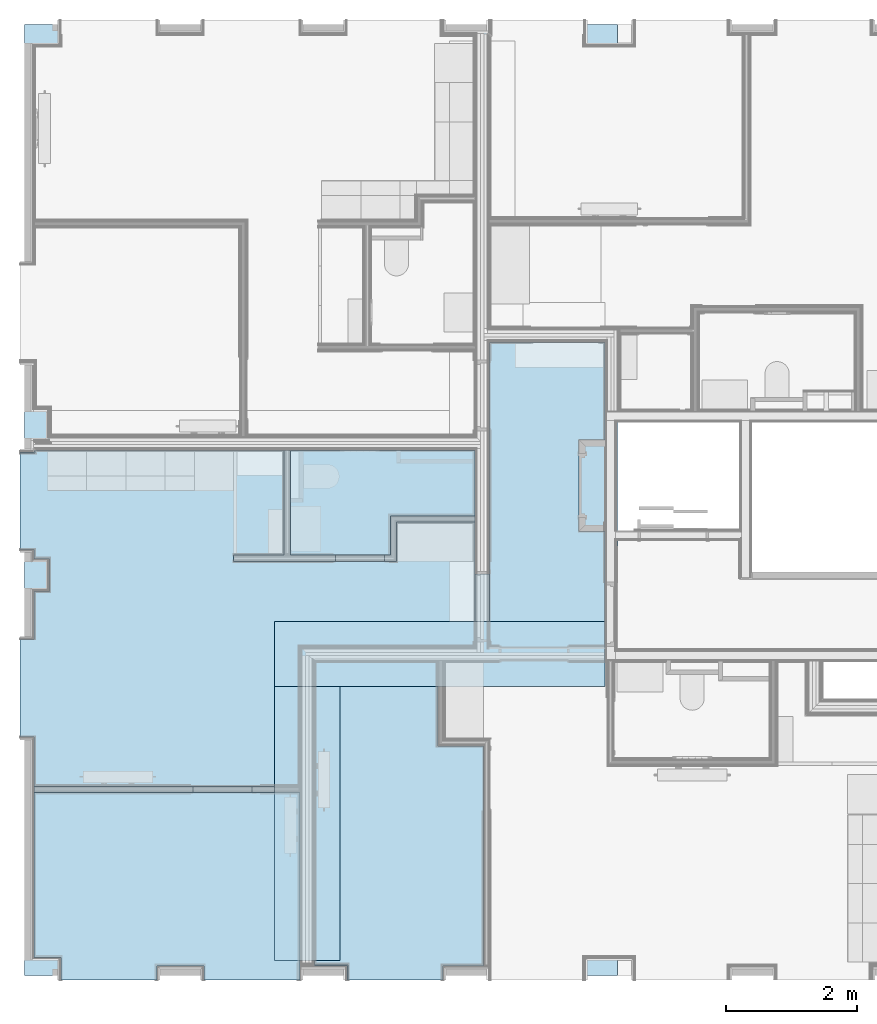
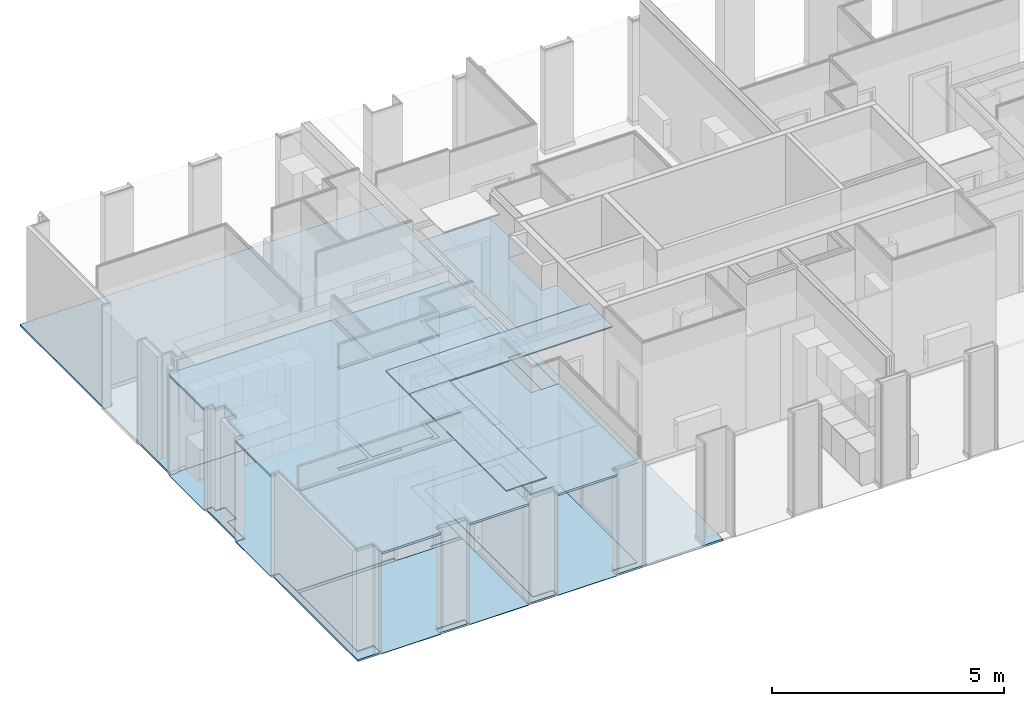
# One storey, part 41 of 64: 21 slabs.
"""IFC2X3 building model written with IfcOpenShell, lengths in metres."""

from ifc_helpers import new_model, entity, si_unit, converted_unit, derived_unit, money_unit, direction, frame, origin_with_axes, place, context, subcontext, project, spatial, faceted_brep, material, type_object, element, save


model = new_model("IFC2X3")

# Units and contexts
model_context = context("Model", 3, precision=1e-05, world=origin_with_axes(), true_north=direction((0.0, 1.0)))
body_context = subcontext(model_context, "Body", "Model", "MODEL_VIEW", scale=1.0)
ifc_project = project(units=[si_unit("LENGTHUNIT", "METRE"), si_unit("AREAUNIT", "SQUARE_METRE"), si_unit("VOLUMEUNIT", "CUBIC_METRE"), si_unit("ABSORBEDDOSEUNIT", "GRAY"), si_unit("AMOUNTOFSUBSTANCEUNIT", "MOLE"), si_unit("DOSEEQUIVALENTUNIT", "SIEVERT"), si_unit("ELECTRICCAPACITANCEUNIT", "FARAD"), si_unit("ELECTRICCHARGEUNIT", "COULOMB"), si_unit("ELECTRICCONDUCTANCEUNIT", "SIEMENS"), si_unit("ELECTRICCURRENTUNIT", "AMPERE"), si_unit("ELECTRICRESISTANCEUNIT", "OHM"), si_unit("ELECTRICVOLTAGEUNIT", "VOLT"), si_unit("ENERGYUNIT", "JOULE"), si_unit("FORCEUNIT", "NEWTON"), si_unit("FREQUENCYUNIT", "HERTZ"), si_unit("ILLUMINANCEUNIT", "LUX"), si_unit("INDUCTANCEUNIT", "HENRY"), si_unit("LUMINOUSFLUXUNIT", "LUMEN"), si_unit("LUMINOUSINTENSITYUNIT", "CANDELA"), si_unit("MAGNETICFLUXDENSITYUNIT", "TESLA"), si_unit("MAGNETICFLUXUNIT", "WEBER"), si_unit("MASSUNIT", "GRAM"), converted_unit("PLANEANGLEUNIT", "degree", entity("IfcReal", 0.0174532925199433), si_unit("PLANEANGLEUNIT", "RADIAN"), dimensions=[0, 0, 0, 0, 0, 0, 0]), si_unit("POWERUNIT", "WATT"), si_unit("PRESSUREUNIT", "PASCAL"), si_unit("RADIOACTIVITYUNIT", "BECQUEREL"), si_unit("SOLIDANGLEUNIT", "STERADIAN"), si_unit("THERMODYNAMICTEMPERATUREUNIT", "KELVIN"), si_unit("TIMEUNIT", "SECOND"), derived_unit("ACCELERATIONUNIT", [(si_unit("LENGTHUNIT", "METRE"), 1), (si_unit("TIMEUNIT", "SECOND"), -2)]), derived_unit("ANGULARVELOCITYUNIT", [(converted_unit("PLANEANGLEUNIT", "degree", entity("IfcReal", 0.0174532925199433), si_unit("PLANEANGLEUNIT", "RADIAN"), dimensions=[0, 0, 0, 0, 0, 0, 0]), 1), (si_unit("TIMEUNIT", "SECOND"), -1)]), derived_unit("CURVATUREUNIT", [(converted_unit("PLANEANGLEUNIT", "degree", entity("IfcReal", 0.0174532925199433), si_unit("PLANEANGLEUNIT", "RADIAN"), dimensions=[0, 0, 0, 0, 0, 0, 0]), 1), (si_unit("LENGTHUNIT", "METRE"), -1)]), derived_unit("DYNAMICVISCOSITYUNIT", [(si_unit("PRESSUREUNIT", "PASCAL"), 1), (si_unit("TIMEUNIT", "SECOND"), 1)]), derived_unit("HEATFLUXDENSITYUNIT", [(si_unit("POWERUNIT", "WATT"), 1), (si_unit("LENGTHUNIT", "METRE"), -2)]), derived_unit("HEATINGVALUEUNIT", [(si_unit("ENERGYUNIT", "JOULE"), 1), (si_unit("MASSUNIT", "GRAM"), -1)]), derived_unit("INTEGERCOUNTRATEUNIT", [(si_unit("TIMEUNIT", "SECOND"), -1)]), derived_unit("IONCONCENTRATIONUNIT", [(si_unit("MASSUNIT", "GRAM"), 1), (si_unit("VOLUMEUNIT", "CUBIC_METRE"), -1)]), derived_unit("ISOTHERMALMOISTURECAPACITYUNIT", [(si_unit("VOLUMEUNIT", "CUBIC_METRE"), 1), (si_unit("MASSUNIT", "GRAM"), -1)]), derived_unit("KINEMATICVISCOSITYUNIT", [(si_unit("AREAUNIT", "SQUARE_METRE"), 1), (si_unit("TIMEUNIT", "SECOND"), -1)]), derived_unit("LINEARFORCEUNIT", [(si_unit("FORCEUNIT", "NEWTON"), 1), (si_unit("LENGTHUNIT", "METRE"), -1)]), derived_unit("LINEARMOMENTUNIT", [(si_unit("FORCEUNIT", "NEWTON"), 1), (si_unit("LENGTHUNIT", "METRE"), -1)]), derived_unit("LINEARSTIFFNESSUNIT", [(si_unit("FORCEUNIT", "NEWTON"), 1), (si_unit("LENGTHUNIT", "METRE"), -1)]), derived_unit("LINEARVELOCITYUNIT", [(si_unit("LENGTHUNIT", "METRE"), 1), (si_unit("TIMEUNIT", "SECOND"), -1)]), derived_unit("LUMINOUSINTENSITYDISTRIBUTIONUNIT", [(si_unit("LUMINOUSINTENSITYUNIT", "CANDELA"), 1), (si_unit("LUMINOUSFLUXUNIT", "LUMEN"), -1)]), derived_unit("MASSDENSITYUNIT", [(si_unit("MASSUNIT", "GRAM"), 1), (si_unit("VOLUMEUNIT", "CUBIC_METRE"), -1)]), derived_unit("MASSFLOWRATEUNIT", [(si_unit("MASSUNIT", "GRAM"), 1), (si_unit("TIMEUNIT", "SECOND"), -1)]), derived_unit("MASSPERLENGTHUNIT", [(si_unit("MASSUNIT", "GRAM"), 1), (si_unit("LENGTHUNIT", "METRE"), -1)]), derived_unit("MODULUSOFELASTICITYUNIT", [(si_unit("FORCEUNIT", "NEWTON"), 1), (si_unit("AREAUNIT", "SQUARE_METRE"), -1)]), derived_unit("MODULUSOFLINEARSUBGRADEREACTIONUNIT", [(si_unit("FORCEUNIT", "NEWTON"), 1), (si_unit("LENGTHUNIT", "METRE"), -2)]), derived_unit("MODULUSOFROTATIONALSUBGRADEREACTIONUNIT", [(si_unit("FORCEUNIT", "NEWTON"), 1), (si_unit("LENGTHUNIT", "METRE"), 1)]), derived_unit("MODULUSOFSUBGRADEREACTIONUNIT", [(si_unit("FORCEUNIT", "NEWTON"), 1), (si_unit("VOLUMEUNIT", "CUBIC_METRE"), -1)]), derived_unit("MOISTUREDIFFUSIVITYUNIT", [(si_unit("VOLUMEUNIT", "CUBIC_METRE"), 1), (si_unit("TIMEUNIT", "SECOND"), -1)]), derived_unit("MOLECULARWEIGHTUNIT", [(si_unit("MASSUNIT", "GRAM"), 1), (si_unit("AMOUNTOFSUBSTANCEUNIT", "MOLE"), -1)]), derived_unit("PLANARFORCEUNIT", [(si_unit("FORCEUNIT", "NEWTON"), 1), (si_unit("LENGTHUNIT", "METRE"), -2)]), derived_unit("ROTATIONALFREQUENCYUNIT", [(si_unit("TIMEUNIT", "SECOND"), -1)]), derived_unit("ROTATIONALMASSUNIT", [(si_unit("MASSUNIT", "GRAM"), 1), (si_unit("LENGTHUNIT", "METRE"), 2)]), derived_unit("ROTATIONALSTIFFNESSUNIT", [(si_unit("FORCEUNIT", "NEWTON"), 1), (si_unit("LENGTHUNIT", "METRE"), 1), (converted_unit("PLANEANGLEUNIT", "degree", entity("IfcReal", 0.0174532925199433), si_unit("PLANEANGLEUNIT", "RADIAN"), dimensions=[0, 0, 0, 0, 0, 0, 0]), -1)]), derived_unit("SECTIONAREAINTEGRALUNIT", [(si_unit("LENGTHUNIT", "METRE"), 5)]), derived_unit("SECTIONMODULUSUNIT", [(si_unit("LENGTHUNIT", "METRE"), 3)]), derived_unit("SHEARMODULUSUNIT", [(si_unit("FORCEUNIT", "NEWTON"), 1), (si_unit("AREAUNIT", "SQUARE_METRE"), -1)]), derived_unit("SOUNDPOWERUNIT", [(si_unit("ENERGYUNIT", "JOULE"), 1), (si_unit("TIMEUNIT", "SECOND"), -1)]), derived_unit("SPECIFICHEATCAPACITYUNIT", [(si_unit("FORCEUNIT", "NEWTON"), 1), (si_unit("MASSUNIT", "GRAM"), -1), (si_unit("THERMODYNAMICTEMPERATUREUNIT", "KELVIN"), -1)]), derived_unit("TEMPERATUREGRADIENTUNIT", [(si_unit("THERMODYNAMICTEMPERATUREUNIT", "KELVIN"), 1), (si_unit("LENGTHUNIT", "METRE"), -1)]), derived_unit("THERMALADMITTANCEUNIT", [(si_unit("POWERUNIT", "WATT"), 1), (si_unit("AREAUNIT", "SQUARE_METRE"), -1), (si_unit("THERMODYNAMICTEMPERATUREUNIT", "KELVIN"), -1)]), derived_unit("THERMALCONDUCTANCEUNIT", [(si_unit("POWERUNIT", "WATT"), 1), (si_unit("LENGTHUNIT", "METRE"), -1), (si_unit("THERMODYNAMICTEMPERATUREUNIT", "KELVIN"), -1)]), derived_unit("THERMALEXPANSIONCOEFFICIENTUNIT", [(si_unit("THERMODYNAMICTEMPERATUREUNIT", "KELVIN"), -1)]), derived_unit("THERMALRESISTANCEUNIT", [(si_unit("AREAUNIT", "SQUARE_METRE"), 1), (si_unit("POWERUNIT", "WATT"), -1)]), derived_unit("THERMALTRANSMITTANCEUNIT", [(si_unit("POWERUNIT", "WATT"), 1), (si_unit("AREAUNIT", "SQUARE_METRE"), -1), (si_unit("THERMODYNAMICTEMPERATUREUNIT", "KELVIN"), -1)]), derived_unit("TORQUEUNIT", [(si_unit("FORCEUNIT", "NEWTON"), 1), (si_unit("LENGTHUNIT", "METRE"), 1)]), derived_unit("VAPORPERMEABILITYUNIT", [(si_unit("MASSUNIT", "GRAM"), 1), (si_unit("TIMEUNIT", "SECOND"), -1)]), derived_unit("VOLUMETRICFLOWRATEUNIT", [(si_unit("VOLUMEUNIT", "CUBIC_METRE"), 1), (si_unit("TIMEUNIT", "SECOND"), -1)]), derived_unit("WARPINGCONSTANTUNIT", [(si_unit("LENGTHUNIT", "METRE"), 6)]), derived_unit("WARPINGMOMENTUNIT", [(si_unit("FORCEUNIT", "NEWTON"), 1), (si_unit("LENGTHUNIT", "METRE"), 2)]), money_unit("GBP")], contexts=[model_context])

# Site, building, storey
site_placement = place(None, origin_with_axes())
site = spatial("IfcSite", under=ifc_project, at=site_placement, Name="Site", CompositionType="ELEMENT")
building_placement = place(site_placement, origin_with_axes())
building = spatial("IfcBuilding", under=site, at=building_placement, Name="Building01", CompositionType="ELEMENT")
storey_placement = place(building_placement, frame((0.0, 0.0, 8.64), z_axis=(0.0, 0.0, 1.0), x_axis=(1.0, 0.0, 0.0)))
storey = spatial("IfcBuildingStorey", under=building, at=storey_placement, Name="2F", CompositionType="ELEMENT", Elevation=8.64)

# Slabs
ifc_material_1 = material(Name="A_BSUK_CeilingSoffitFinishes_Suspended")
slab_type_1 = type_object("IfcSlabType", Name="A-FloorsSlabs A_BSUK_Slabs", PredefinedType="FLOOR")
placement = place(storey_placement, frame((0.0, 0.0, -8.64), z_axis=(0.0, 0.0, 1.0), x_axis=(1.0, 0.0, 0.0)))
element("IfcSlab", 1, at=placement, inside=storey, type_object=slab_type_1, material=ifc_material_1, Name="A-FloorsSlabs A_BSUK_Slabs", ObjectType="CompoundSlabLeaf", context=body_context, shape_type="Brep", body=[
    faceted_brep([(7.289669, 5.205, 11.255), (7.289669, 5.205, 11.27), (7.289669, 9.862704, 11.27), (7.289669, 9.862704, 11.255), (9.06, 5.205, 11.255), (9.06, 5.205, 11.27), (9.06, 6.968405, 11.255), (9.06, 6.968405, 11.27), (8.658, 6.968405, 11.255), (8.658, 6.968405, 11.27), (8.658, 8.372405, 11.255), (8.658, 8.372405, 11.27), (9.06, 8.372405, 11.255), (9.06, 8.372405, 11.27), (9.06, 8.665, 11.255), (9.06, 8.665, 11.27), (9.06, 9.862704, 11.255), (9.06, 9.862704, 11.27)], [[[0, 1, 2, 3]], [[4, 5, 1, 0]], [[6, 7, 5, 4]], [[8, 9, 7, 6]], [[10, 11, 9, 8]], [[12, 13, 11, 10]], [[14, 15, 13, 12]], [[16, 17, 15, 14]], [[3, 2, 17, 16]], [[1, 5, 7, 9, 11, 13, 15, 17, 2]], [[3, 16, 14, 12, 10, 8, 6, 4, 0]]]),
])
ifc_material_2 = material(Name="A_BSUK_InternalFinishes_FloorScreed")
element("IfcSlab", 2, at=placement, inside=storey, type_object=slab_type_1, material=ifc_material_2, Name="A-FloorsSlabs A_BSUK_Slabs", ObjectType="CompoundSlabLeaf", context=body_context, shape_type="Brep", body=[
    faceted_brep([(0.17, 14.73, 8.59), (0.17, 14.73, 8.64), (9.25, 14.73, 8.64), (9.25, 14.73, 8.59), (0.17, 0.17, 8.59), (0.17, 0.17, 8.64), (9.25, 0.17, 8.59), (9.25, 0.17, 8.64)], [[[0, 1, 2, 3]], [[4, 5, 1, 0]], [[6, 7, 5, 4]], [[3, 2, 7, 6]], [[1, 5, 7, 2]], [[3, 6, 4, 0]]]),
])
ifc_material_3 = material(Name="A_BSUK_ExpandedPolystyreneBoards")
element("IfcSlab", 3, at=placement, inside=storey, type_object=slab_type_1, material=ifc_material_3, Name="A-FloorsSlabs A_BSUK_Slabs", ObjectType="CompoundSlabLeaf", context=body_context, shape_type="Brep", body=[
    faceted_brep([(7.289669, 5.205, 8.64), (7.289669, 5.205, 8.643), (7.289669, 9.862704, 8.643), (7.289669, 9.862704, 8.64), (9.06, 5.205, 8.64), (9.06, 5.205, 8.643), (9.06, 6.607081, 8.64), (9.06, 6.607081, 8.643), (9.06, 8.372405, 8.64), (9.06, 8.372405, 8.643), (9.06, 8.9, 8.64), (9.06, 8.9, 8.643), (9.06, 9.862704, 8.64), (9.06, 9.862704, 8.643)], [[[0, 1, 2, 3]], [[4, 5, 1, 0]], [[6, 7, 5, 4]], [[8, 9, 7, 6]], [[10, 11, 9, 8]], [[12, 13, 11, 10]], [[3, 2, 13, 12]], [[1, 5, 7, 9, 11, 13, 2]], [[3, 12, 10, 8, 6, 4, 0]]]),
])
element("IfcSlab", 4, at=placement, inside=storey, type_object=slab_type_1, material=ifc_material_3, Name="A-FloorsSlabs A_BSUK_Slabs", ObjectType="CompoundSlabLeaf", context=body_context, shape_type="Brep", body=[
    faceted_brep([(0.318, 8.21067, 8.64), (0.318, 8.21067, 8.643), (7.064669, 8.21067, 8.643), (7.064669, 8.21067, 8.64), (0.318, 8.185, 8.64), (0.318, 8.185, 8.643), (0.1, 8.185, 8.64), (0.1, 8.185, 8.643), (0.1, 6.69218, 8.64), (0.1, 6.69218, 8.643), (0.318, 6.69218, 8.64), (0.318, 6.69218, 8.643), (0.318, 6.548, 8.64), (0.318, 6.548, 8.643), (0.548, 6.548, 8.64), (0.548, 6.548, 8.643), (0.548, 6.052, 8.64), (0.548, 6.052, 8.643), (0.318, 6.052, 8.64), (0.318, 6.052, 8.643), (0.318, 5.315, 8.64), (0.318, 5.315, 8.643), (0.1, 5.315, 8.64), (0.1, 5.315, 8.643), (0.1, 3.82218, 8.64), (0.1, 3.82218, 8.643), (0.318, 3.82218, 8.64), (0.318, 3.82218, 8.643), (0.318, 0.448, 8.64), (0.318, 0.448, 8.643), (0.725, 0.448, 8.64), (0.725, 0.448, 8.643), (0.725, 0.1, 8.64), (0.725, 0.1, 8.643), (2.195, 0.1, 8.64), (2.195, 0.1, 8.643), (2.195, 0.318, 8.64), (2.195, 0.318, 8.643), (2.915, 0.318, 8.64), (2.915, 0.318, 8.643), (2.915, 0.1, 8.64), (2.915, 0.1, 8.643), (4.385, 0.1, 8.64), (4.385, 0.1, 8.643), (4.385, 0.318, 8.64), (4.385, 0.318, 8.643), (4.385, 5.205, 8.64), (4.385, 5.205, 8.643), (7.064669, 5.205, 8.64), (7.064669, 5.205, 8.643), (7.064669, 5.316475, 8.64), (7.064669, 5.316475, 8.643), (7.289669, 5.316475, 8.64), (7.289669, 5.316475, 8.643), (7.289669, 6.316475, 8.64), (7.289669, 6.316475, 8.643), (7.064669, 6.316475, 8.64), (7.064669, 6.316475, 8.643)], [[[0, 1, 2, 3]], [[4, 5, 1, 0]], [[6, 7, 5, 4]], [[8, 9, 7, 6]], [[10, 11, 9, 8]], [[12, 13, 11, 10]], [[14, 15, 13, 12]], [[16, 17, 15, 14]], [[18, 19, 17, 16]], [[20, 21, 19, 18]], [[22, 23, 21, 20]], [[24, 25, 23, 22]], [[26, 27, 25, 24]], [[28, 29, 27, 26]], [[30, 31, 29, 28]], [[32, 33, 31, 30]], [[34, 35, 33, 32]], [[36, 37, 35, 34]], [[38, 39, 37, 36]], [[40, 41, 39, 38]], [[42, 43, 41, 40]], [[44, 45, 43, 42]], [[46, 47, 45, 44]], [[48, 49, 47, 46]], [[50, 51, 49, 48]], [[52, 53, 51, 50]], [[54, 55, 53, 52]], [[56, 57, 55, 54]], [[3, 2, 57, 56]], [[1, 5, 7, 9, 11, 13, 15, 17, 19, 21, 23, 25, 27, 29, 31, 33, 35, 37, 39, 41, 43, 45, 47, 49, 51, 53, 55, 57, 2]], [[3, 56, 54, 52, 50, 48, 46, 44, 42, 40, 38, 36, 34, 32, 30, 28, 26, 24, 22, 20, 18, 16, 14, 12, 10, 8, 6, 4, 0]]]),
])
ifc_material_4 = material(Name="A_BSUK_Carpet-Pile")
element("IfcSlab", 5, at=placement, inside=storey, type_object=slab_type_1, material=ifc_material_4, Name="A-FloorsSlabs A_BSUK_Slabs", ObjectType="CompoundSlabLeaf", context=body_context, shape_type="Brep", body=[
    faceted_brep([(4.61, 4.98, 8.643), (4.61, 4.98, 8.655), (6.5, 4.98, 8.655), (6.5, 4.98, 8.643), (4.61, 0.318, 8.643), (4.61, 0.318, 8.655), (5.105, 0.318, 8.643), (5.105, 0.318, 8.655), (5.105, 0.1, 8.643), (5.105, 0.1, 8.655), (6.575, 0.1, 8.643), (6.575, 0.1, 8.655), (6.575, 0.318, 8.643), (6.575, 0.318, 8.655), (7.2, 0.318, 8.643), (7.2, 0.318, 8.655), (7.2, 3.685, 8.643), (7.2, 3.685, 8.655), (6.5, 3.685, 8.643), (6.5, 3.685, 8.655)], [[[0, 1, 2, 3]], [[4, 5, 1, 0]], [[6, 7, 5, 4]], [[8, 9, 7, 6]], [[10, 11, 9, 8]], [[12, 13, 11, 10]], [[14, 15, 13, 12]], [[16, 17, 15, 14]], [[18, 19, 17, 16]], [[3, 2, 19, 18]], [[1, 5, 7, 9, 11, 13, 15, 17, 19, 2]], [[3, 18, 16, 14, 12, 10, 8, 6, 4, 0]]]),
])
ifc_material_5 = material(Name="A_BSUK_Parquet_Floor")
element("IfcSlab", 6, at=placement, inside=storey, type_object=slab_type_1, material=ifc_material_5, Name="A-FloorsSlabs A_BSUK_Slabs", ObjectType="CompoundSlabLeaf", context=body_context, shape_type="Brep", body=[
    faceted_brep([(7.289669, 6.316475, 8.643), (7.289669, 6.316475, 8.655), (7.289669, 5.316475, 8.655), (7.289669, 5.316475, 8.643), (7.064669, 6.316475, 8.643), (7.064669, 6.316475, 8.655), (7.064669, 7.111475, 8.643), (7.064669, 7.111475, 8.655), (5.864669, 7.111475, 8.643), (5.864669, 7.111475, 8.655), (5.864669, 6.511475, 8.643), (5.864669, 6.511475, 8.655), (5.679088, 6.511475, 8.643), (5.679088, 6.511475, 8.655), (5.679088, 6.606475, 8.643), (5.679088, 6.606475, 8.655), (4.929088, 6.606475, 8.643), (4.929088, 6.606475, 8.655), (4.929088, 6.511475, 8.643), (4.929088, 6.511475, 8.655), (3.37073, 6.511475, 8.643), (3.37073, 6.511475, 8.655), (3.37073, 6.606475, 8.643), (3.37073, 6.606475, 8.655), (4.14573, 6.606475, 8.643), (4.14573, 6.606475, 8.655), (4.14573, 8.21067, 8.643), (4.14573, 8.21067, 8.655), (0.318, 8.21067, 8.643), (0.318, 8.21067, 8.655), (0.318, 8.185, 8.643), (0.318, 8.185, 8.655), (0.1, 8.185, 8.643), (0.1, 8.185, 8.655), (0.1, 6.69218, 8.643), (0.1, 6.69218, 8.655), (0.318, 6.69218, 8.643), (0.318, 6.69218, 8.655), (0.318, 6.548, 8.643), (0.318, 6.548, 8.655), (0.548, 6.548, 8.643), (0.548, 6.548, 8.655), (0.548, 6.052, 8.643), (0.548, 6.052, 8.655), (0.318, 6.052, 8.643), (0.318, 6.052, 8.655), (0.318, 5.315, 8.643), (0.318, 5.315, 8.655), (0.1, 5.315, 8.643), (0.1, 5.315, 8.655), (0.1, 3.82218, 8.643), (0.1, 3.82218, 8.655), (0.318, 3.82218, 8.643), (0.318, 3.82218, 8.655), (0.318, 3.065286, 8.643), (0.318, 3.065286, 8.655), (2.751, 3.065286, 8.643), (2.751, 3.065286, 8.655), (2.751, 2.970286, 8.643), (2.751, 2.970286, 8.655), (3.651, 2.970286, 8.643), (3.651, 2.970286, 8.655), (3.651, 3.065286, 8.643), (3.651, 3.065286, 8.655), (4.385, 3.065286, 8.643), (4.385, 3.065286, 8.655), (4.385, 5.205, 8.643), (4.385, 5.205, 8.655), (7.064669, 5.205, 8.643), (7.064669, 5.205, 8.655), (7.064669, 5.316475, 8.643), (7.064669, 5.316475, 8.655)], [[[0, 1, 2, 3]], [[4, 5, 1, 0]], [[6, 7, 5, 4]], [[8, 9, 7, 6]], [[10, 11, 9, 8]], [[12, 13, 11, 10]], [[14, 15, 13, 12]], [[16, 17, 15, 14]], [[18, 19, 17, 16]], [[20, 21, 19, 18]], [[22, 23, 21, 20]], [[24, 25, 23, 22]], [[26, 27, 25, 24]], [[28, 29, 27, 26]], [[30, 31, 29, 28]], [[32, 33, 31, 30]], [[34, 35, 33, 32]], [[36, 37, 35, 34]], [[38, 39, 37, 36]], [[40, 41, 39, 38]], [[42, 43, 41, 40]], [[44, 45, 43, 42]], [[46, 47, 45, 44]], [[48, 49, 47, 46]], [[50, 51, 49, 48]], [[52, 53, 51, 50]], [[54, 55, 53, 52]], [[56, 57, 55, 54]], [[58, 59, 57, 56]], [[60, 61, 59, 58]], [[62, 63, 61, 60]], [[64, 65, 63, 62]], [[66, 67, 65, 64]], [[68, 69, 67, 66]], [[70, 71, 69, 68]], [[3, 2, 71, 70]], [[1, 5, 7, 9, 11, 13, 15, 17, 19, 21, 23, 25, 27, 29, 31, 33, 35, 37, 39, 41, 43, 45, 47, 49, 51, 53, 55, 57, 59, 61, 63, 65, 67, 69, 71, 2]], [[3, 70, 68, 66, 64, 62, 60, 58, 56, 54, 52, 50, 48, 46, 44, 42, 40, 38, 36, 34, 32, 30, 28, 26, 24, 22, 20, 18, 16, 14, 12, 10, 8, 6, 4, 0]]]),
])
ifc_material_6 = material(Name="A_BSUK_Ceramic_FloorTiles")
element("IfcSlab", 7, at=placement, inside=storey, type_object=slab_type_1, material=ifc_material_6, Name="A-FloorsSlabs A_BSUK_Slabs", ObjectType="CompoundSlabLeaf", context=body_context, shape_type="Brep", body=[
    faceted_brep([(4.24073, 8.21067, 8.643), (4.24073, 8.21067, 8.655), (7.064669, 8.21067, 8.655), (7.064669, 8.21067, 8.643), (4.24073, 6.606475, 8.643), (4.24073, 6.606475, 8.655), (5.769669, 6.606475, 8.643), (5.769669, 6.606475, 8.655), (5.769669, 7.206475, 8.643), (5.769669, 7.206475, 8.655), (7.064669, 7.206475, 8.643), (7.064669, 7.206475, 8.655)], [[[0, 1, 2, 3]], [[4, 5, 1, 0]], [[6, 7, 5, 4]], [[8, 9, 7, 6]], [[10, 11, 9, 8]], [[3, 2, 11, 10]], [[1, 5, 7, 9, 11, 2]], [[3, 10, 8, 6, 4, 0]]]),
])
element("IfcSlab", 8, at=placement, inside=storey, type_object=slab_type_1, material=ifc_material_4, Name="A-FloorsSlabs A_BSUK_Slabs", ObjectType="CompoundSlabLeaf", context=body_context, shape_type="Brep", body=[
    faceted_brep([(0.318, 0.448, 8.643), (0.318, 0.448, 8.655), (0.318, 2.970286, 8.655), (0.318, 2.970286, 8.643), (0.725, 0.448, 8.643), (0.725, 0.448, 8.655), (0.725, 0.1, 8.643), (0.725, 0.1, 8.655), (2.195, 0.1, 8.643), (2.195, 0.1, 8.655), (2.195, 0.318, 8.643), (2.195, 0.318, 8.655), (2.915, 0.318, 8.643), (2.915, 0.318, 8.655), (2.915, 0.1, 8.643), (2.915, 0.1, 8.655), (4.385, 0.1, 8.643), (4.385, 0.1, 8.655), (4.385, 2.970286, 8.643), (4.385, 2.970286, 8.655)], [[[0, 1, 2, 3]], [[4, 5, 1, 0]], [[6, 7, 5, 4]], [[8, 9, 7, 6]], [[10, 11, 9, 8]], [[12, 13, 11, 10]], [[14, 15, 13, 12]], [[16, 17, 15, 14]], [[18, 19, 17, 16]], [[3, 2, 19, 18]], [[1, 5, 7, 9, 11, 13, 15, 17, 19, 2]], [[3, 18, 16, 14, 12, 10, 8, 6, 4, 0]]]),
])
element("IfcSlab", 9, at=placement, inside=storey, type_object=slab_type_1, material=ifc_material_4, Name="A-FloorsSlabs A_BSUK_Slabs", ObjectType="CompoundSlabLeaf", context=body_context, shape_type="Brep", body=[
    faceted_brep([(7.289669, 9.862704, 8.643), (7.289669, 9.862704, 8.655), (9.06, 9.862704, 8.655), (9.06, 9.862704, 8.643), (7.289669, 5.205, 8.643), (7.289669, 5.205, 8.655), (9.06, 5.205, 8.643), (9.06, 5.205, 8.655), (9.06, 6.968405, 8.643), (9.06, 6.968405, 8.655), (8.658, 6.968405, 8.643), (8.658, 6.968405, 8.655), (8.658, 7.610847, 8.643), (8.658, 7.610847, 8.655), (8.658, 8.372405, 8.643), (8.658, 8.372405, 8.655), (9.06, 8.372405, 8.643), (9.06, 8.372405, 8.655)], [[[0, 1, 2, 3]], [[4, 5, 1, 0]], [[6, 7, 5, 4]], [[8, 9, 7, 6]], [[10, 11, 9, 8]], [[12, 13, 11, 10]], [[14, 15, 13, 12]], [[16, 17, 15, 14]], [[3, 2, 17, 16]], [[1, 5, 7, 9, 11, 13, 15, 17, 2]], [[3, 16, 14, 12, 10, 8, 6, 4, 0]]]),
])
element("IfcSlab", 10, at=placement, inside=storey, type_object=slab_type_1, material=ifc_material_1, Name="A-FloorsSlabs A_BSUK_Slabs", ObjectType="CompoundSlabLeaf", context=body_context, shape_type="Brep", body=[
    faceted_brep([(4.61, 4.98, 11.255), (4.61, 4.98, 11.27), (6.5, 4.98, 11.27), (6.5, 4.98, 11.255), (4.61, 0.333, 11.255), (4.61, 0.333, 11.27), (5.120124, 0.333, 11.255), (5.120124, 0.333, 11.27), (5.120124, 0.1, 11.255), (5.120124, 0.1, 11.27), (6.575, 0.1, 11.255), (6.575, 0.1, 11.27), (6.575, 0.318, 11.255), (6.575, 0.318, 11.27), (7.2, 0.318, 11.255), (7.2, 0.318, 11.27), (7.2, 3.685, 11.255), (7.2, 3.685, 11.27), (6.5, 3.685, 11.255), (6.5, 3.685, 11.27)], [[[0, 1, 2, 3]], [[4, 5, 1, 0]], [[6, 7, 5, 4]], [[8, 9, 7, 6]], [[10, 11, 9, 8]], [[12, 13, 11, 10]], [[14, 15, 13, 12]], [[16, 17, 15, 14]], [[18, 19, 17, 16]], [[3, 2, 19, 18]], [[1, 5, 7, 9, 11, 13, 15, 17, 19, 2]], [[3, 18, 16, 14, 12, 10, 8, 6, 4, 0]]]),
])
element("IfcSlab", 11, at=placement, inside=storey, type_object=slab_type_1, material=ifc_material_1, Name="A-FloorsSlabs A_BSUK_Slabs", ObjectType="CompoundSlabLeaf", context=body_context, shape_type="Brep", body=[
    faceted_brep([(4.24073, 8.21067, 11.255), (4.24073, 8.21067, 11.27), (7.064669, 8.21067, 11.27), (7.064669, 8.21067, 11.255), (4.24073, 6.606475, 11.255), (4.24073, 6.606475, 11.27), (5.769669, 6.606475, 11.255), (5.769669, 6.606475, 11.27), (5.769669, 7.206475, 11.255), (5.769669, 7.206475, 11.27), (7.064669, 7.206475, 11.255), (7.064669, 7.206475, 11.27)], [[[0, 1, 2, 3]], [[4, 5, 1, 0]], [[6, 7, 5, 4]], [[8, 9, 7, 6]], [[10, 11, 9, 8]], [[3, 2, 11, 10]], [[1, 5, 7, 9, 11, 2]], [[3, 10, 8, 6, 4, 0]]]),
])
element("IfcSlab", 12, at=placement, inside=storey, type_object=slab_type_1, material=ifc_material_1, Name="A-FloorsSlabs A_BSUK_Slabs", ObjectType="CompoundSlabLeaf", context=body_context, shape_type="Brep", body=[
    faceted_brep([(7.064669, 6.466475, 11.255), (7.064669, 6.466475, 11.27), (7.064669, 5.466475, 11.27), (7.064669, 5.466475, 11.255), (7.064669, 7.111475, 11.255), (7.064669, 7.111475, 11.27), (5.864669, 7.111475, 11.255), (5.864669, 7.111475, 11.27), (5.864669, 6.511475, 11.255), (5.864669, 6.511475, 11.27), (5.771088, 6.511475, 11.255), (5.771088, 6.511475, 11.27), (4.937088, 6.511475, 11.255), (4.937088, 6.511475, 11.27), (3.37073, 6.511475, 11.255), (3.37073, 6.511475, 11.27), (3.37073, 6.606475, 11.255), (3.37073, 6.606475, 11.27), (4.14573, 6.606475, 11.255), (4.14573, 6.606475, 11.27), (4.14573, 8.21067, 11.255), (4.14573, 8.21067, 11.27), (0.333, 8.21067, 11.255), (0.333, 8.21067, 11.27), (0.333, 8.17, 11.255), (0.333, 8.17, 11.27), (0.1, 8.17, 11.255), (0.1, 8.17, 11.27), (0.1, 6.69218, 11.255), (0.1, 6.69218, 11.27), (0.318, 6.69218, 11.255), (0.318, 6.69218, 11.27), (0.318, 6.548, 11.255), (0.318, 6.548, 11.27), (0.548, 6.548, 11.255), (0.548, 6.548, 11.27), (0.548, 6.052, 11.255), (0.548, 6.052, 11.27), (0.318, 6.052, 11.255), (0.318, 6.052, 11.27), (0.318, 5.315, 11.255), (0.318, 5.315, 11.27), (0.1, 5.315, 11.255), (0.1, 5.315, 11.27), (0.1, 3.82218, 11.255), (0.1, 3.82218, 11.27), (0.318, 3.82218, 11.255), (0.318, 3.82218, 11.27), (0.318, 3.065286, 11.255), (0.318, 3.065286, 11.27), (4.385, 3.065286, 11.255), (4.385, 3.065286, 11.27), (4.385, 5.205, 11.255), (4.385, 5.205, 11.27), (7.064669, 5.205, 11.255), (7.064669, 5.205, 11.27)], [[[0, 1, 2, 3]], [[4, 5, 1, 0]], [[6, 7, 5, 4]], [[8, 9, 7, 6]], [[10, 11, 9, 8]], [[12, 13, 11, 10]], [[14, 15, 13, 12]], [[16, 17, 15, 14]], [[18, 19, 17, 16]], [[20, 21, 19, 18]], [[22, 23, 21, 20]], [[24, 25, 23, 22]], [[26, 27, 25, 24]], [[28, 29, 27, 26]], [[30, 31, 29, 28]], [[32, 33, 31, 30]], [[34, 35, 33, 32]], [[36, 37, 35, 34]], [[38, 39, 37, 36]], [[40, 41, 39, 38]], [[42, 43, 41, 40]], [[44, 45, 43, 42]], [[46, 47, 45, 44]], [[48, 49, 47, 46]], [[50, 51, 49, 48]], [[52, 53, 51, 50]], [[54, 55, 53, 52]], [[3, 2, 55, 54]], [[1, 5, 7, 9, 11, 13, 15, 17, 19, 21, 23, 25, 27, 29, 31, 33, 35, 37, 39, 41, 43, 45, 47, 49, 51, 53, 55, 2]], [[3, 54, 52, 50, 48, 46, 44, 42, 40, 38, 36, 34, 32, 30, 28, 26, 24, 22, 20, 18, 16, 14, 12, 10, 8, 6, 4, 0]]]),
])
element("IfcSlab", 13, at=placement, inside=storey, type_object=slab_type_1, material=ifc_material_1, Name="A-FloorsSlabs A_BSUK_Slabs", ObjectType="CompoundSlabLeaf", context=body_context, shape_type="Brep", body=[
    faceted_brep([(0.318, 0.448, 11.255), (0.318, 0.448, 11.27), (0.318, 2.970286, 11.27), (0.318, 2.970286, 11.255), (0.725, 0.448, 11.255), (0.725, 0.448, 11.27), (0.725, 0.1, 11.255), (0.725, 0.1, 11.27), (2.195, 0.1, 11.255), (2.195, 0.1, 11.27), (2.195, 0.318, 11.255), (2.195, 0.318, 11.27), (2.915, 0.318, 11.255), (2.915, 0.318, 11.27), (2.915, 0.1, 11.255), (2.915, 0.1, 11.27), (4.385, 0.1, 11.255), (4.385, 0.1, 11.27), (4.385, 2.970286, 11.255), (4.385, 2.970286, 11.27)], [[[0, 1, 2, 3]], [[4, 5, 1, 0]], [[6, 7, 5, 4]], [[8, 9, 7, 6]], [[10, 11, 9, 8]], [[12, 13, 11, 10]], [[14, 15, 13, 12]], [[16, 17, 15, 14]], [[18, 19, 17, 16]], [[3, 2, 19, 18]], [[1, 5, 7, 9, 11, 13, 15, 17, 19, 2]], [[3, 18, 16, 14, 12, 10, 8, 6, 4, 0]]]),
])
element("IfcSlab", 14, at=placement, inside=storey, type_object=slab_type_1, material=ifc_material_1, Name="A-FloorsSlabs A_BSUK_Slabs", ObjectType="CompoundSlabLeaf", context=body_context, shape_type="Brep", body=[
    faceted_brep([(3.997, 4.593, 11.605), (3.997, 4.593, 11.62), (3.997, 5.593, 11.62), (3.997, 5.593, 11.605), (9.06, 4.593, 11.605), (9.06, 4.593, 11.62), (9.06, 5.593, 11.605), (9.06, 5.593, 11.62)], [[[0, 1, 2, 3]], [[4, 5, 1, 0]], [[6, 7, 5, 4]], [[3, 2, 7, 6]], [[1, 5, 7, 2]], [[3, 6, 4, 0]]]),
])
element("IfcSlab", 15, at=placement, inside=storey, type_object=slab_type_1, material=ifc_material_1, Name="A-FloorsSlabs A_BSUK_Slabs", ObjectType="CompoundSlabLeaf", context=body_context, shape_type="Brep", body=[
    faceted_brep([(3.997, 0.4, 11.605), (3.997, 0.4, 11.62), (3.997, 4.593, 11.62), (3.997, 4.593, 11.605), (4.997, 0.4, 11.605), (4.997, 0.4, 11.62), (4.997, 4.593, 11.605), (4.997, 4.593, 11.62)], [[[0, 1, 2, 3]], [[4, 5, 1, 0]], [[6, 7, 5, 4]], [[3, 2, 7, 6]], [[1, 5, 7, 2]], [[3, 6, 4, 0]]]),
])
element("IfcSlab", 16, at=placement, inside=storey, type_object=slab_type_1, material=ifc_material_1, Name="A-FloorsSlabs A_BSUK_Slabs", ObjectType="CompoundSlabLeaf", context=body_context, shape_type="Brep", body=[
    faceted_brep([(3.997, 4.593, 11.59), (3.997, 4.593, 11.605), (3.997, 5.593, 11.605), (3.997, 5.593, 11.59), (9.06, 4.593, 11.59), (9.06, 4.593, 11.605), (9.06, 5.593, 11.59), (9.06, 5.593, 11.605)], [[[0, 1, 2, 3]], [[4, 5, 1, 0]], [[6, 7, 5, 4]], [[3, 2, 7, 6]], [[1, 5, 7, 2]], [[3, 6, 4, 0]]]),
])
element("IfcSlab", 17, at=placement, inside=storey, type_object=slab_type_1, material=ifc_material_1, Name="A-FloorsSlabs A_BSUK_Slabs", ObjectType="CompoundSlabLeaf", context=body_context, shape_type="Brep", body=[
    faceted_brep([(3.997, 0.4, 11.59), (3.997, 0.4, 11.605), (3.997, 4.593, 11.605), (3.997, 4.593, 11.59), (4.997, 0.4, 11.59), (4.997, 0.4, 11.605), (4.997, 4.593, 11.59), (4.997, 4.593, 11.605)], [[[0, 1, 2, 3]], [[4, 5, 1, 0]], [[6, 7, 5, 4]], [[3, 2, 7, 6]], [[1, 5, 7, 2]], [[3, 6, 4, 0]]]),
])
slab_type_2 = type_object("IfcSlabType", Name="A-FloorsSlabs A_BSUK_ExpandedPolystyreneBoards", PredefinedType="FLOOR")
element("IfcSlab", 18, at=placement, inside=storey, type_object=slab_type_2, material=ifc_material_3, Name="A-FloorsSlabs A_BSUK_ExpandedPolystyreneBoards", ObjectType="CompoundSlabLeaf", context=body_context, shape_type="Brep", body=[
    faceted_brep([(4.61, 4.98, 11.27), (4.61, 4.98, 11.32), (6.5, 4.98, 11.32), (6.5, 4.98, 11.27), (4.61, 0.318, 11.27), (4.61, 0.318, 11.32), (5.105, 0.318, 11.27), (5.105, 0.318, 11.32), (5.105, 0.1, 11.27), (5.105, 0.1, 11.32), (6.575, 0.1, 11.27), (6.575, 0.1, 11.32), (6.575, 0.318, 11.27), (6.575, 0.318, 11.32), (7.2, 0.318, 11.27), (7.2, 0.318, 11.32), (7.2, 3.685, 11.27), (7.2, 3.685, 11.32), (6.5, 3.685, 11.27), (6.5, 3.685, 11.32)], [[[0, 1, 2, 3]], [[4, 5, 1, 0]], [[6, 7, 5, 4]], [[8, 9, 7, 6]], [[10, 11, 9, 8]], [[12, 13, 11, 10]], [[14, 15, 13, 12]], [[16, 17, 15, 14]], [[18, 19, 17, 16]], [[3, 2, 19, 18]], [[1, 5, 7, 9, 11, 13, 15, 17, 19, 2]], [[3, 18, 16, 14, 12, 10, 8, 6, 4, 0]]]),
])
element("IfcSlab", 19, at=placement, inside=storey, type_object=slab_type_2, material=ifc_material_3, Name="A-FloorsSlabs A_BSUK_ExpandedPolystyreneBoards", ObjectType="CompoundSlabLeaf", context=body_context, shape_type="Brep", body=[
    faceted_brep([(4.24073, 8.21067, 11.27), (4.24073, 8.21067, 11.32), (7.064669, 8.21067, 11.32), (7.064669, 8.21067, 11.27), (4.24073, 6.606475, 11.27), (4.24073, 6.606475, 11.32), (5.769669, 6.606475, 11.27), (5.769669, 6.606475, 11.32), (5.769669, 7.206475, 11.27), (5.769669, 7.206475, 11.32), (7.064669, 7.206475, 11.27), (7.064669, 7.206475, 11.32)], [[[0, 1, 2, 3]], [[4, 5, 1, 0]], [[6, 7, 5, 4]], [[8, 9, 7, 6]], [[10, 11, 9, 8]], [[3, 2, 11, 10]], [[1, 5, 7, 9, 11, 2]], [[3, 10, 8, 6, 4, 0]]]),
])
element("IfcSlab", 20, at=placement, inside=storey, type_object=slab_type_2, material=ifc_material_3, Name="A-FloorsSlabs A_BSUK_ExpandedPolystyreneBoards", ObjectType="CompoundSlabLeaf", context=body_context, shape_type="Brep", body=[
    faceted_brep([(7.064669, 6.466475, 11.27), (7.064669, 6.466475, 11.32), (7.064669, 5.466475, 11.32), (7.064669, 5.466475, 11.27), (7.064669, 7.111475, 11.27), (7.064669, 7.111475, 11.32), (5.864669, 7.111475, 11.27), (5.864669, 7.111475, 11.32), (5.864669, 6.511475, 11.27), (5.864669, 6.511475, 11.32), (5.771088, 6.511475, 11.27), (5.771088, 6.511475, 11.32), (4.937088, 6.511475, 11.27), (4.937088, 6.511475, 11.32), (3.37073, 6.511475, 11.27), (3.37073, 6.511475, 11.32), (3.37073, 6.606475, 11.27), (3.37073, 6.606475, 11.32), (4.14573, 6.606475, 11.27), (4.14573, 6.606475, 11.32), (4.14573, 8.21067, 11.27), (4.14573, 8.21067, 11.32), (0.318, 8.21067, 11.27), (0.318, 8.21067, 11.32), (0.318, 8.185, 11.27), (0.318, 8.185, 11.32), (0.1, 8.185, 11.27), (0.1, 8.185, 11.32), (0.1, 6.69218, 11.27), (0.1, 6.69218, 11.32), (0.318, 6.69218, 11.27), (0.318, 6.69218, 11.32), (0.318, 6.548, 11.27), (0.318, 6.548, 11.32), (0.548, 6.548, 11.27), (0.548, 6.548, 11.32), (0.548, 6.052, 11.27), (0.548, 6.052, 11.32), (0.318, 6.052, 11.27), (0.318, 6.052, 11.32), (0.318, 5.315, 11.27), (0.318, 5.315, 11.32), (0.1, 5.315, 11.27), (0.1, 5.315, 11.32), (0.1, 3.82218, 11.27), (0.1, 3.82218, 11.32), (0.318, 3.82218, 11.27), (0.318, 3.82218, 11.32), (0.318, 3.065286, 11.27), (0.318, 3.065286, 11.32), (4.385, 3.065286, 11.27), (4.385, 3.065286, 11.32), (4.385, 5.205, 11.27), (4.385, 5.205, 11.32), (7.064669, 5.205, 11.27), (7.064669, 5.205, 11.32)], [[[0, 1, 2, 3]], [[4, 5, 1, 0]], [[6, 7, 5, 4]], [[8, 9, 7, 6]], [[10, 11, 9, 8]], [[12, 13, 11, 10]], [[14, 15, 13, 12]], [[16, 17, 15, 14]], [[18, 19, 17, 16]], [[20, 21, 19, 18]], [[22, 23, 21, 20]], [[24, 25, 23, 22]], [[26, 27, 25, 24]], [[28, 29, 27, 26]], [[30, 31, 29, 28]], [[32, 33, 31, 30]], [[34, 35, 33, 32]], [[36, 37, 35, 34]], [[38, 39, 37, 36]], [[40, 41, 39, 38]], [[42, 43, 41, 40]], [[44, 45, 43, 42]], [[46, 47, 45, 44]], [[48, 49, 47, 46]], [[50, 51, 49, 48]], [[52, 53, 51, 50]], [[54, 55, 53, 52]], [[3, 2, 55, 54]], [[1, 5, 7, 9, 11, 13, 15, 17, 19, 21, 23, 25, 27, 29, 31, 33, 35, 37, 39, 41, 43, 45, 47, 49, 51, 53, 55, 2]], [[3, 54, 52, 50, 48, 46, 44, 42, 40, 38, 36, 34, 32, 30, 28, 26, 24, 22, 20, 18, 16, 14, 12, 10, 8, 6, 4, 0]]]),
])
element("IfcSlab", 21, at=placement, inside=storey, type_object=slab_type_2, material=ifc_material_3, Name="A-FloorsSlabs A_BSUK_ExpandedPolystyreneBoards", ObjectType="CompoundSlabLeaf", context=body_context, shape_type="Brep", body=[
    faceted_brep([(0.318, 0.448, 11.27), (0.318, 0.448, 11.32), (0.318, 2.970286, 11.32), (0.318, 2.970286, 11.27), (0.725, 0.448, 11.27), (0.725, 0.448, 11.32), (0.725, 0.1, 11.27), (0.725, 0.1, 11.32), (2.195, 0.1, 11.27), (2.195, 0.1, 11.32), (2.195, 0.318, 11.27), (2.195, 0.318, 11.32), (2.915, 0.318, 11.27), (2.915, 0.318, 11.32), (2.915, 0.1, 11.27), (2.915, 0.1, 11.32), (4.385, 0.1, 11.27), (4.385, 0.1, 11.32), (4.385, 2.970286, 11.27), (4.385, 2.970286, 11.32)], [[[0, 1, 2, 3]], [[4, 5, 1, 0]], [[6, 7, 5, 4]], [[8, 9, 7, 6]], [[10, 11, 9, 8]], [[12, 13, 11, 10]], [[14, 15, 13, 12]], [[16, 17, 15, 14]], [[18, 19, 17, 16]], [[3, 2, 19, 18]], [[1, 5, 7, 9, 11, 13, 15, 17, 19, 2]], [[3, 18, 16, 14, 12, 10, 8, 6, 4, 0]]]),
])

save(model, "model.ifc")
